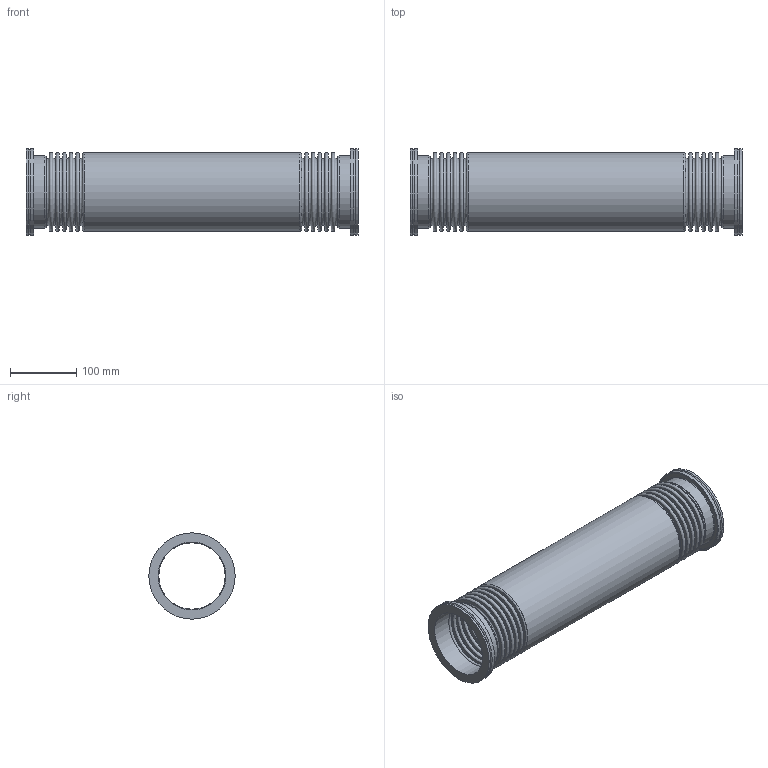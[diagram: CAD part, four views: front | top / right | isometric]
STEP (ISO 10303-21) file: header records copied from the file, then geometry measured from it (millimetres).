
FILE_DESCRIPTION((''),'2;1');
FILE_NAME('W:\M212-216.stp','2012-01-25T11:02:49',('KAA'),(''),'Autodesk Inventor 2012','Autodesk Inventor 2012','');
FILE_SCHEMA(('AUTOMOTIVE_DESIGN { 1 0 10303 214 1 1 1 1 }'));
Length unit declared in the file: millimetre
Products named in the file (1): M212-216
Bounding box: 500 x 130 x 130 mm (x, y, z)
Volume: 219177.8 mm3; surface area: 495723.3 mm2
Topology: 1 solids, 1 shells, 122 faces, 189 edges, 123 vertices
Faces by surface type: plane 56, torus 52, cylinder 14
Full cylindrical faces by diameter (mm): 102 x2, 108 x2, 110 x2, 118.4 x1, 119 x1, 126 x2, 130 x4
Entity records: 2603 total; most frequent: DIRECTION 490, CARTESIAN_POINT 367, AXIS2_PLACEMENT_3D 245, ORIENTED_EDGE 244, EDGE_LOOP 244, STYLED_ITEM 123, VERTEX_POINT 122, CIRCLE 122
